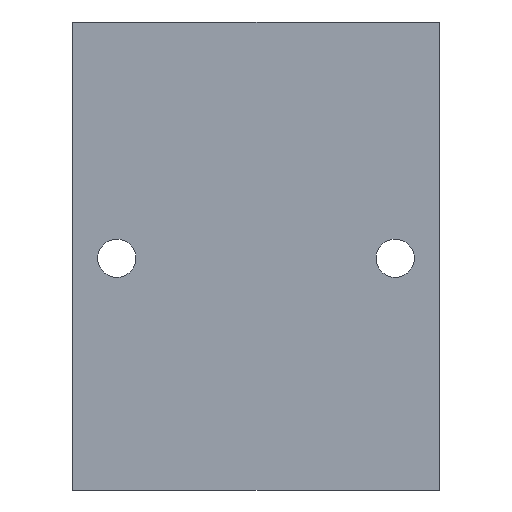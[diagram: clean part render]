
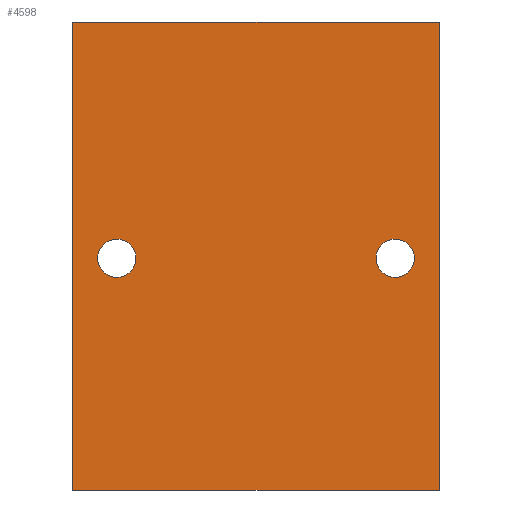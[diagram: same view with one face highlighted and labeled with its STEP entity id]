
A CAD part, front view. The second image highlights one B-rep face of the part: STEP entity #4598.
In plain terms, the highlighted planar face has unit normal (0, -1, 0).
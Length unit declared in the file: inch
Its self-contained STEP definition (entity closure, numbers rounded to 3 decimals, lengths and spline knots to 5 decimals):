
#248 = CARTESIAN_POINT ( 'NONE',  ( 0.375, 0., -1.856 ) ) ;
#280 = CARTESIAN_POINT ( 'NONE',  ( 2.755, 0., -2.02 ) ) ;
#356 = CARTESIAN_POINT ( 'NONE',  ( 0.375, 0., -2.02 ) ) ;
#484 = ORIENTED_EDGE ( 'NONE', *, *, #4882, .T. ) ;
#551 = CARTESIAN_POINT ( 'NONE',  ( 0.375, 0., -2.02 ) ) ;
#686 = DIRECTION ( 'NONE',  ( -1., 0., 0. ) ) ;
#689 = CIRCLE ( 'NONE', #9730, 0.164 ) ;
#719 = CARTESIAN_POINT ( 'NONE',  ( 3.13, 0., 0. ) ) ;
#754 = DIRECTION ( 'NONE',  ( 0., 1., 0. ) ) ;
#931 = DIRECTION ( 'NONE',  ( 0., 0., 1. ) ) ;
#955 = PLANE ( 'NONE',  #6724 ) ;
#990 = VECTOR ( 'NONE', #3275, 39.37008 ) ;
#1032 = VECTOR ( 'NONE', #686, 39.37008 ) ;
#1037 = CIRCLE ( 'NONE', #7471, 0.164 ) ;
#1227 = LINE ( 'NONE', #719, #990 ) ;
#1330 = DIRECTION ( 'NONE',  ( 0., 1., 0. ) ) ;
#1346 = CIRCLE ( 'NONE', #3315, 0.164 ) ;
#1404 = VERTEX_POINT ( 'NONE', #7155 ) ;
#1508 = LINE ( 'NONE', #7549, #1032 ) ;
#1601 = EDGE_CURVE ( 'NONE', #9367, #8491, #1508, .T. ) ;
#1896 = ORIENTED_EDGE ( 'NONE', *, *, #5339, .T. ) ;
#2569 = FACE_BOUND ( 'NONE', #3726, .T. ) ;
#2944 = ORIENTED_EDGE ( 'NONE', *, *, #8808, .T. ) ;
#3053 = CARTESIAN_POINT ( 'NONE',  ( 0., 0., 0. ) ) ;
#3105 = ORIENTED_EDGE ( 'NONE', *, *, #5959, .T. ) ;
#3243 = CARTESIAN_POINT ( 'NONE',  ( 3.13, 0., -4. ) ) ;
#3275 = DIRECTION ( 'NONE',  ( 0., 0., -1. ) ) ;
#3315 = AXIS2_PLACEMENT_3D ( 'NONE', #280, #3806, #8560 ) ;
#3331 = EDGE_LOOP ( 'NONE', ( #9322, #5631, #5454, #6126 ) ) ;
#3528 = DIRECTION ( 'NONE',  ( 0., 0., 1. ) ) ;
#3619 = CIRCLE ( 'NONE', #7408, 0.164 ) ;
#3637 = VECTOR ( 'NONE', #5386, 39.37008 ) ;
#3726 = EDGE_LOOP ( 'NONE', ( #484, #3105 ) ) ;
#3806 = DIRECTION ( 'NONE',  ( 0., 1., 0. ) ) ;
#4159 = EDGE_CURVE ( 'NONE', #8491, #1404, #6102, .T. ) ;
#4217 = VERTEX_POINT ( 'NONE', #248 ) ;
#4317 = FACE_BOUND ( 'NONE', #6208, .T. ) ;
#4369 = LINE ( 'NONE', #3243, #7665 ) ;
#4450 = VERTEX_POINT ( 'NONE', #9482 ) ;
#4598 = ADVANCED_FACE ( 'NONE', ( #2569, #4317, #8338 ), #955, .F. ) ;
#4881 = DIRECTION ( 'NONE',  ( 0., 1., 0. ) ) ;
#4882 = EDGE_CURVE ( 'NONE', #4217, #6506, #689, .T. ) ;
#5009 = CARTESIAN_POINT ( 'NONE',  ( 2.755, 0., -2.02 ) ) ;
#5339 = EDGE_CURVE ( 'NONE', #4450, #7348, #3619, .T. ) ;
#5386 = DIRECTION ( 'NONE',  ( 0., 0., -1. ) ) ;
#5454 = ORIENTED_EDGE ( 'NONE', *, *, #8606, .F. ) ;
#5631 = ORIENTED_EDGE ( 'NONE', *, *, #9002, .F. ) ;
#5959 = EDGE_CURVE ( 'NONE', #6506, #4217, #1037, .T. ) ;
#6102 = LINE ( 'NONE', #3053, #3637 ) ;
#6126 = ORIENTED_EDGE ( 'NONE', *, *, #1601, .T. ) ;
#6152 = CARTESIAN_POINT ( 'NONE',  ( 0., 0., 0. ) ) ;
#6208 = EDGE_LOOP ( 'NONE', ( #1896, #2944 ) ) ;
#6404 = CARTESIAN_POINT ( 'NONE',  ( 3.13, 0., 0. ) ) ;
#6506 = VERTEX_POINT ( 'NONE', #8459 ) ;
#6675 = DIRECTION ( 'NONE',  ( 0., 0., 1. ) ) ;
#6724 = AXIS2_PLACEMENT_3D ( 'NONE', #6404, #7004, #6675 ) ;
#6874 = CARTESIAN_POINT ( 'NONE',  ( 2.755, 0., -2.184 ) ) ;
#7004 = DIRECTION ( 'NONE',  ( 0., 1., 0. ) ) ;
#7155 = CARTESIAN_POINT ( 'NONE',  ( 0., 0., -4. ) ) ;
#7348 = VERTEX_POINT ( 'NONE', #6874 ) ;
#7408 = AXIS2_PLACEMENT_3D ( 'NONE', #5009, #1330, #931 ) ;
#7411 = DIRECTION ( 'NONE',  ( -1., 0., 0. ) ) ;
#7471 = AXIS2_PLACEMENT_3D ( 'NONE', #356, #754, #8195 ) ;
#7549 = CARTESIAN_POINT ( 'NONE',  ( 3.13, 0., 0. ) ) ;
#7665 = VECTOR ( 'NONE', #7411, 39.37008 ) ;
#8195 = DIRECTION ( 'NONE',  ( 0., 0., 1. ) ) ;
#8338 = FACE_OUTER_BOUND ( 'NONE', #3331, .T. ) ;
#8459 = CARTESIAN_POINT ( 'NONE',  ( 0.375, 0., -2.184 ) ) ;
#8491 = VERTEX_POINT ( 'NONE', #6152 ) ;
#8560 = DIRECTION ( 'NONE',  ( 0., 0., 1. ) ) ;
#8606 = EDGE_CURVE ( 'NONE', #9367, #9067, #1227, .T. ) ;
#8808 = EDGE_CURVE ( 'NONE', #7348, #4450, #1346, .T. ) ;
#9002 = EDGE_CURVE ( 'NONE', #9067, #1404, #4369, .T. ) ;
#9067 = VERTEX_POINT ( 'NONE', #9135 ) ;
#9129 = CARTESIAN_POINT ( 'NONE',  ( 3.13, 0., 0. ) ) ;
#9135 = CARTESIAN_POINT ( 'NONE',  ( 3.13, 0., -4. ) ) ;
#9322 = ORIENTED_EDGE ( 'NONE', *, *, #4159, .T. ) ;
#9367 = VERTEX_POINT ( 'NONE', #9129 ) ;
#9482 = CARTESIAN_POINT ( 'NONE',  ( 2.755, 0., -1.856 ) ) ;
#9730 = AXIS2_PLACEMENT_3D ( 'NONE', #551, #4881, #3528 ) ;
